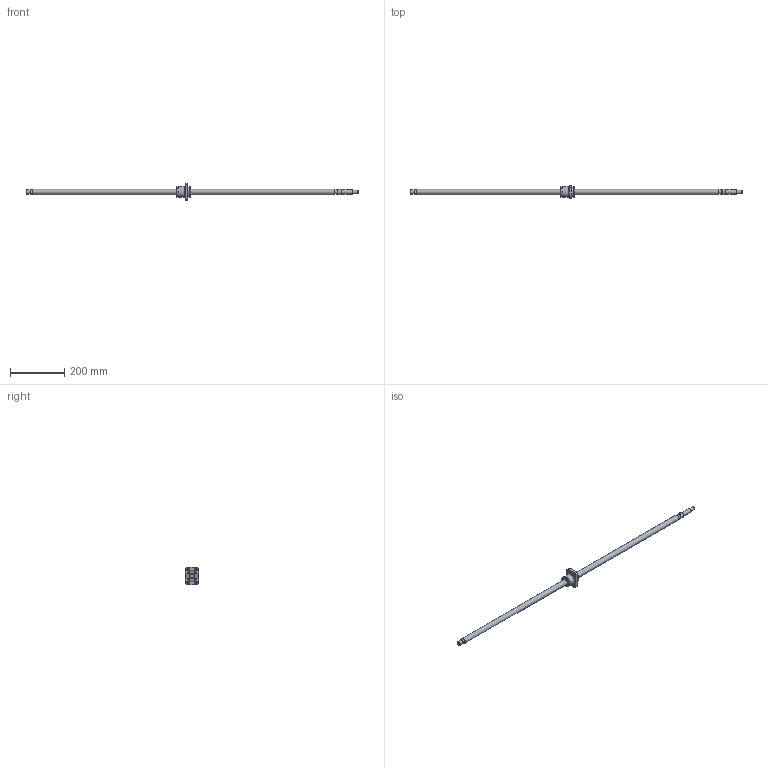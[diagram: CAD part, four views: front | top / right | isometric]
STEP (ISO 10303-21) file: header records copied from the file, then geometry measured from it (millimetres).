
FILE_DESCRIPTION(/* description */ ('STEP AP203'),/* implementation_level */ '2;1');
FILE_NAME(/* name */ 'BNK2020-3.6G0+1220LC5Y(5810)',/* time_stamp */ '2024-07-09T09:40:39+02:00',/* author */ ('License CC BY-ND 4.0'),/* organization */ ('CADENAS'),/* preprocessor_version */ 'ST-DEVELOPER v19.3',/* originating_system */ 'PARTsolutions',/* authorisation */ ' ');
FILE_SCHEMA (('CONFIG_CONTROL_DESIGN'));
Length unit declared in the file: millimetre
Products named in the file (3): BNK2020-3.6G0+1220LC5Y(5810); BNK 2020-3.6G0+1220LC5Y Shaft; BNK 2020-3.6G0+1220LC5Y0 Nut
Assembly tree (2 placements, depth 2):
  BNK2020-3.6G0+1220LC5Y(5810)
    BNK 2020-3.6G0+1220LC5Y Shaft
    BNK 2020-3.6G0+1220LC5Y0 Nut
Bounding box: 1220 x 46 x 66 mm (x, y, z)
Volume: 428298.8 mm3; surface area: 93347.4 mm2
Topology: 2 solids, 2 shells, 136 faces, 309 edges, 199 vertices
Faces by surface type: plane 75, cylinder 35, cone 20, torus 6
Full cylindrical faces by diameter (mm): 5.188 x1, 5.5 x4, 6.6 x4, 11 x4, 12 x1, 14.3 x1, 15 x3, 18 x1, 19.5 x1, 20 x2, 35.1 x1, 38 x2, 39 x2
Entity records: 3695 total; most frequent: CARTESIAN_POINT 671, DIRECTION 626, ORIENTED_EDGE 528, EDGE_CURVE 264, AXIS2_PLACEMENT_3D 247, FACE_BOUND 210, EDGE_LOOP 209, VERTEX_POINT 196
